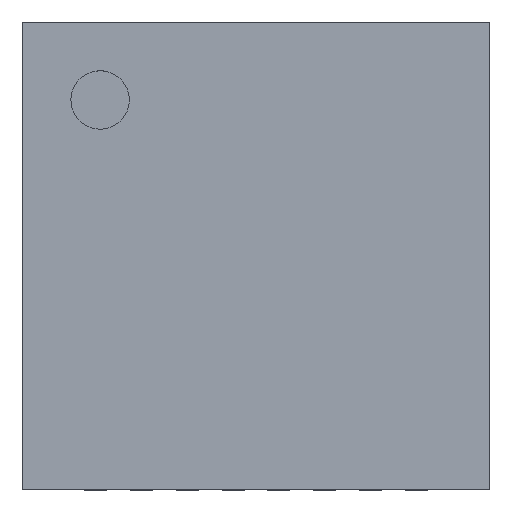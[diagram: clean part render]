
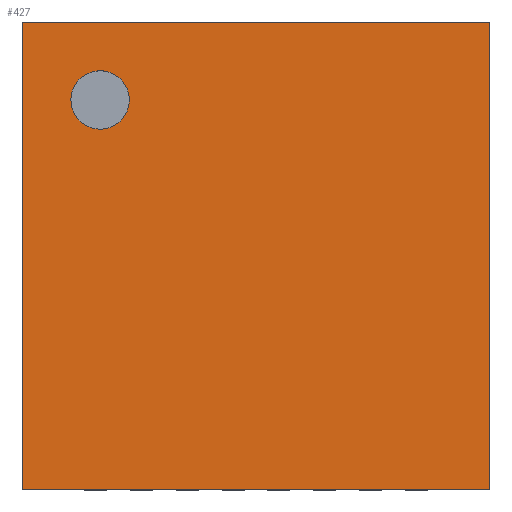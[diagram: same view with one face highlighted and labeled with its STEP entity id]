
A CAD part, top view. The second image highlights one B-rep face of the part: STEP entity #427.
In plain terms, the highlighted planar face has unit normal (0, 0, 1).
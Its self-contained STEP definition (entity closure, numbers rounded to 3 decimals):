
#238 = VERTEX_POINT('',#239);
#239 = CARTESIAN_POINT('',(0.,0.,0.8));
#246 = PLANE('',#247);
#247 = AXIS2_PLACEMENT_3D('',#248,#249,#250);
#248 = CARTESIAN_POINT('',(0.,0.,0.));
#249 = DIRECTION('',(1.,0.,0.));
#250 = DIRECTION('',(0.,0.,1.));
#258 = PLANE('',#259);
#259 = AXIS2_PLACEMENT_3D('',#260,#261,#262);
#260 = CARTESIAN_POINT('',(0.,0.,0.));
#261 = DIRECTION('',(0.,1.,0.));
#262 = DIRECTION('',(0.,0.,1.));
#299 = VERTEX_POINT('',#300);
#300 = CARTESIAN_POINT('',(0.,5.1,0.8));
#314 = PLANE('',#315);
#315 = AXIS2_PLACEMENT_3D('',#316,#317,#318);
#316 = CARTESIAN_POINT('',(0.,5.1,0.));
#317 = DIRECTION('',(0.,1.,0.));
#318 = DIRECTION('',(0.,0.,1.));
#326 = EDGE_CURVE('',#238,#299,#327,.T.);
#327 = SURFACE_CURVE('',#328,(#332,#339),.PCURVE_S1.);
#328 = LINE('',#329,#330);
#329 = CARTESIAN_POINT('',(0.,0.,0.8));
#330 = VECTOR('',#331,1.);
#331 = DIRECTION('',(0.,1.,0.));
#332 = PCURVE('',#246,#333);
#333 = DEFINITIONAL_REPRESENTATION('',(#334),#338);
#334 = LINE('',#335,#336);
#335 = CARTESIAN_POINT('',(0.8,0.));
#336 = VECTOR('',#337,1.);
#337 = DIRECTION('',(0.,-1.));
#338 = ( GEOMETRIC_REPRESENTATION_CONTEXT(2) 
PARAMETRIC_REPRESENTATION_CONTEXT() REPRESENTATION_CONTEXT('2D SPACE',''
  ) );
#339 = PCURVE('',#340,#345);
#340 = PLANE('',#341);
#341 = AXIS2_PLACEMENT_3D('',#342,#343,#344);
#342 = CARTESIAN_POINT('',(0.,0.,0.8));
#343 = DIRECTION('',(0.,0.,1.));
#344 = DIRECTION('',(1.,0.,0.));
#345 = DEFINITIONAL_REPRESENTATION('',(#346),#350);
#346 = LINE('',#347,#348);
#347 = CARTESIAN_POINT('',(0.,0.));
#348 = VECTOR('',#349,1.);
#349 = DIRECTION('',(0.,1.));
#350 = ( GEOMETRIC_REPRESENTATION_CONTEXT(2) 
PARAMETRIC_REPRESENTATION_CONTEXT() REPRESENTATION_CONTEXT('2D SPACE',''
  ) );
#379 = EDGE_CURVE('',#238,#380,#382,.T.);
#380 = VERTEX_POINT('',#381);
#381 = CARTESIAN_POINT('',(5.1,0.,0.8));
#382 = SURFACE_CURVE('',#383,(#387,#394),.PCURVE_S1.);
#383 = LINE('',#384,#385);
#384 = CARTESIAN_POINT('',(0.,0.,0.8));
#385 = VECTOR('',#386,1.);
#386 = DIRECTION('',(1.,0.,0.));
#387 = PCURVE('',#258,#388);
#388 = DEFINITIONAL_REPRESENTATION('',(#389),#393);
#389 = LINE('',#390,#391);
#390 = CARTESIAN_POINT('',(0.8,0.));
#391 = VECTOR('',#392,1.);
#392 = DIRECTION('',(0.,1.));
#393 = ( GEOMETRIC_REPRESENTATION_CONTEXT(2) 
PARAMETRIC_REPRESENTATION_CONTEXT() REPRESENTATION_CONTEXT('2D SPACE',''
  ) );
#394 = PCURVE('',#340,#395);
#395 = DEFINITIONAL_REPRESENTATION('',(#396),#400);
#396 = LINE('',#397,#398);
#397 = CARTESIAN_POINT('',(0.,0.));
#398 = VECTOR('',#399,1.);
#399 = DIRECTION('',(1.,0.));
#400 = ( GEOMETRIC_REPRESENTATION_CONTEXT(2) 
PARAMETRIC_REPRESENTATION_CONTEXT() REPRESENTATION_CONTEXT('2D SPACE',''
  ) );
#416 = PLANE('',#417);
#417 = AXIS2_PLACEMENT_3D('',#418,#419,#420);
#418 = CARTESIAN_POINT('',(5.1,0.,0.));
#419 = DIRECTION('',(1.,0.,0.));
#420 = DIRECTION('',(0.,0.,1.));
#427 = ADVANCED_FACE('',(#428,#476),#340,.T.);
#428 = FACE_BOUND('',#429,.T.);
#429 = EDGE_LOOP('',(#430,#431,#432,#455));
#430 = ORIENTED_EDGE('',*,*,#326,.F.);
#431 = ORIENTED_EDGE('',*,*,#379,.T.);
#432 = ORIENTED_EDGE('',*,*,#433,.T.);
#433 = EDGE_CURVE('',#380,#434,#436,.T.);
#434 = VERTEX_POINT('',#435);
#435 = CARTESIAN_POINT('',(5.1,5.1,0.8));
#436 = SURFACE_CURVE('',#437,(#441,#448),.PCURVE_S1.);
#437 = LINE('',#438,#439);
#438 = CARTESIAN_POINT('',(5.1,0.,0.8));
#439 = VECTOR('',#440,1.);
#440 = DIRECTION('',(0.,1.,0.));
#441 = PCURVE('',#340,#442);
#442 = DEFINITIONAL_REPRESENTATION('',(#443),#447);
#443 = LINE('',#444,#445);
#444 = CARTESIAN_POINT('',(5.1,0.));
#445 = VECTOR('',#446,1.);
#446 = DIRECTION('',(0.,1.));
#447 = ( GEOMETRIC_REPRESENTATION_CONTEXT(2) 
PARAMETRIC_REPRESENTATION_CONTEXT() REPRESENTATION_CONTEXT('2D SPACE',''
  ) );
#448 = PCURVE('',#416,#449);
#449 = DEFINITIONAL_REPRESENTATION('',(#450),#454);
#450 = LINE('',#451,#452);
#451 = CARTESIAN_POINT('',(0.8,0.));
#452 = VECTOR('',#453,1.);
#453 = DIRECTION('',(0.,-1.));
#454 = ( GEOMETRIC_REPRESENTATION_CONTEXT(2) 
PARAMETRIC_REPRESENTATION_CONTEXT() REPRESENTATION_CONTEXT('2D SPACE',''
  ) );
#455 = ORIENTED_EDGE('',*,*,#456,.F.);
#456 = EDGE_CURVE('',#299,#434,#457,.T.);
#457 = SURFACE_CURVE('',#458,(#462,#469),.PCURVE_S1.);
#458 = LINE('',#459,#460);
#459 = CARTESIAN_POINT('',(0.,5.1,0.8));
#460 = VECTOR('',#461,1.);
#461 = DIRECTION('',(1.,0.,0.));
#462 = PCURVE('',#340,#463);
#463 = DEFINITIONAL_REPRESENTATION('',(#464),#468);
#464 = LINE('',#465,#466);
#465 = CARTESIAN_POINT('',(0.,5.1));
#466 = VECTOR('',#467,1.);
#467 = DIRECTION('',(1.,0.));
#468 = ( GEOMETRIC_REPRESENTATION_CONTEXT(2) 
PARAMETRIC_REPRESENTATION_CONTEXT() REPRESENTATION_CONTEXT('2D SPACE',''
  ) );
#469 = PCURVE('',#314,#470);
#470 = DEFINITIONAL_REPRESENTATION('',(#471),#475);
#471 = LINE('',#472,#473);
#472 = CARTESIAN_POINT('',(0.8,0.));
#473 = VECTOR('',#474,1.);
#474 = DIRECTION('',(0.,1.));
#475 = ( GEOMETRIC_REPRESENTATION_CONTEXT(2) 
PARAMETRIC_REPRESENTATION_CONTEXT() REPRESENTATION_CONTEXT('2D SPACE',''
  ) );
#476 = FACE_BOUND('',#477,.T.);
#477 = EDGE_LOOP('',(#478));
#478 = ORIENTED_EDGE('',*,*,#479,.F.);
#479 = EDGE_CURVE('',#480,#480,#482,.T.);
#480 = VERTEX_POINT('',#481);
#481 = CARTESIAN_POINT('',(1.169,4.25,0.8));
#482 = SURFACE_CURVE('',#483,(#488,#495),.PCURVE_S1.);
#483 = CIRCLE('',#484,0.319);
#484 = AXIS2_PLACEMENT_3D('',#485,#486,#487);
#485 = CARTESIAN_POINT('',(0.85,4.25,0.8));
#486 = DIRECTION('',(0.,0.,1.));
#487 = DIRECTION('',(1.,0.,0.));
#488 = PCURVE('',#340,#489);
#489 = DEFINITIONAL_REPRESENTATION('',(#490),#494);
#490 = CIRCLE('',#491,0.319);
#491 = AXIS2_PLACEMENT_2D('',#492,#493);
#492 = CARTESIAN_POINT('',(0.85,4.25));
#493 = DIRECTION('',(1.,0.));
#494 = ( GEOMETRIC_REPRESENTATION_CONTEXT(2) 
PARAMETRIC_REPRESENTATION_CONTEXT() REPRESENTATION_CONTEXT('2D SPACE',''
  ) );
#495 = PCURVE('',#496,#501);
#496 = CYLINDRICAL_SURFACE('',#497,0.319);
#497 = AXIS2_PLACEMENT_3D('',#498,#499,#500);
#498 = CARTESIAN_POINT('',(0.85,4.25,0.7));
#499 = DIRECTION('',(0.,0.,1.));
#500 = DIRECTION('',(1.,0.,0.));
#501 = DEFINITIONAL_REPRESENTATION('',(#502),#506);
#502 = LINE('',#503,#504);
#503 = CARTESIAN_POINT('',(0.,0.1));
#504 = VECTOR('',#505,1.);
#505 = DIRECTION('',(1.,0.));
#506 = ( GEOMETRIC_REPRESENTATION_CONTEXT(2) 
PARAMETRIC_REPRESENTATION_CONTEXT() REPRESENTATION_CONTEXT('2D SPACE',''
  ) );
